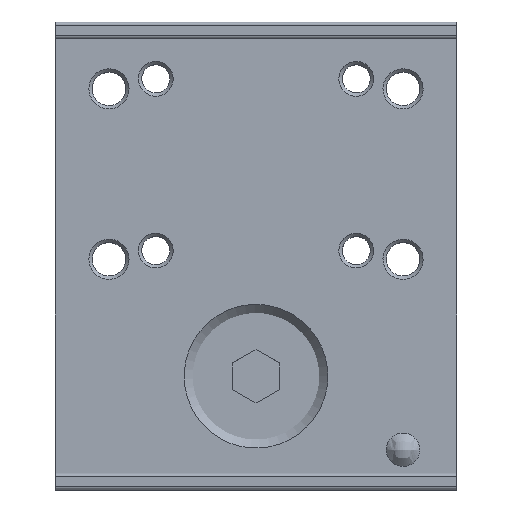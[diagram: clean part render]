
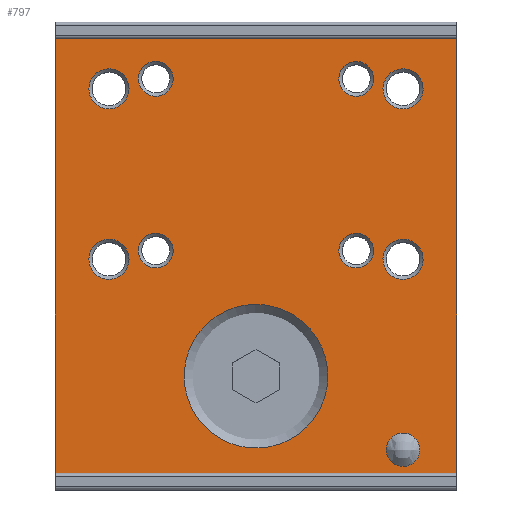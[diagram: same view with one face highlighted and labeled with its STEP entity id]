
A CAD part, top view. The second image highlights one B-rep face of the part: STEP entity #797.
In plain terms, the highlighted free-form (B-spline) face has degree [1, 1] with [2, 2] control points.
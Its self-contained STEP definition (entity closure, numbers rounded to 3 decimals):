
#138=CARTESIAN_POINT('',(30.,67.5,12.));
#139=VERTEX_POINT('',#138);
#145=CARTESIAN_POINT('',(30.,2.5,12.));
#146=VERTEX_POINT('',#145);
#147=CARTESIAN_POINT('',(30.,67.5,12.));
#148=CARTESIAN_POINT('',(30.,2.5,12.));
#149=B_SPLINE_CURVE_WITH_KNOTS('',1,(#147,#148),.POLYLINE_FORM.,.F.,.U.,(2,2),(0.,1.),.UNSPECIFIED.);
#150=EDGE_CURVE('',#139,#146,#149,.T.);
#251=CARTESIAN_POINT('',(-30.,67.5,12.));
#252=VERTEX_POINT('',#251);
#258=CARTESIAN_POINT('',(-30.,2.5,12.));
#259=VERTEX_POINT('',#258);
#260=CARTESIAN_POINT('',(-30.,67.5,12.));
#261=CARTESIAN_POINT('',(-30.,2.5,12.));
#262=B_SPLINE_CURVE_WITH_KNOTS('',1,(#260,#261),.POLYLINE_FORM.,.F.,.U.,(2,2),(0.,1.),.UNSPECIFIED.);
#263=EDGE_CURVE('',#252,#259,#262,.T.);
#355=CARTESIAN_POINT('',(30.,67.5,12.));
#356=CARTESIAN_POINT('',(-30.,67.5,12.));
#357=B_SPLINE_CURVE_WITH_KNOTS('',1,(#355,#356),.POLYLINE_FORM.,.F.,.U.,(2,2),(0.,1.),.UNSPECIFIED.);
#358=EDGE_CURVE('',#139,#252,#357,.T.);
#375=CARTESIAN_POINT('',(30.,2.5,12.));
#376=CARTESIAN_POINT('',(-30.,2.5,12.));
#377=B_SPLINE_CURVE_WITH_KNOTS('',1,(#375,#376),.POLYLINE_FORM.,.F.,.U.,(2,2),(0.,1.),.UNSPECIFIED.);
#378=EDGE_CURVE('',#146,#259,#377,.T.);
#439=CARTESIAN_POINT('',(23.5,6.,12.));
#440=VERTEX_POINT('',#439);
#459=CARTESIAN_POINT('',(23.5,6.,12.));
#460=CARTESIAN_POINT('',(23.5,8.598,12.));
#461=CARTESIAN_POINT('',(21.25,7.299,12.));
#462=CARTESIAN_POINT('',(19.,6.,12.));
#463=CARTESIAN_POINT('',(21.25,4.701,12.));
#464=CARTESIAN_POINT('',(23.5,3.402,12.));
#465=CARTESIAN_POINT('',(23.5,6.,12.));
#466=(BOUNDED_CURVE()B_SPLINE_CURVE(2,(#459,#460,#461,#462,#463,#464,#465),.CIRCULAR_ARC.,.T.,.U.)B_SPLINE_CURVE_WITH_KNOTS((3,2,2,3),(0.,0.333,0.667,1.),.UNSPECIFIED.)CURVE()GEOMETRIC_REPRESENTATION_ITEM()RATIONAL_B_SPLINE_CURVE((1.,0.5,1.,0.5,1.,0.5,1.))REPRESENTATION_ITEM(''));
#467=EDGE_CURVE('',#440,#440,#466,.T.);
#639=CARTESIAN_POINT('',(30.,67.5,12.));
#640=CARTESIAN_POINT('',(-30.,67.5,12.));
#641=CARTESIAN_POINT('',(30.,2.5,12.));
#642=CARTESIAN_POINT('',(-30.,2.5,12.));
#643=B_SPLINE_SURFACE_WITH_KNOTS('',1,1,((#639,#640),(#641,#642)),.PLANE_SURF.,.F.,.F.,.U.,(2,2),(2,2),(0.,1.),(0.,1.),.UNSPECIFIED.);
#644=ORIENTED_EDGE('',*,*,#150,.T.);
#645=ORIENTED_EDGE('',*,*,#378,.T.);
#646=ORIENTED_EDGE('',*,*,#263,.F.);
#647=ORIENTED_EDGE('',*,*,#358,.F.);
#648=EDGE_LOOP('',(#644,#645,#646,#647));
#649=FACE_OUTER_BOUND('',#648,.F.);
#650=CARTESIAN_POINT('',(25.,34.5,12.));
#651=VERTEX_POINT('',#650);
#652=CARTESIAN_POINT('',(25.,34.5,12.));
#653=CARTESIAN_POINT('',(25.,37.5,12.));
#654=CARTESIAN_POINT('',(22.,37.5,12.));
#655=CARTESIAN_POINT('',(19.,37.5,12.));
#656=CARTESIAN_POINT('',(19.,34.5,12.));
#657=CARTESIAN_POINT('',(19.,31.5,12.));
#658=CARTESIAN_POINT('',(22.,31.5,12.));
#659=CARTESIAN_POINT('',(25.,31.5,12.));
#660=CARTESIAN_POINT('',(25.,34.5,12.));
#661=(BOUNDED_CURVE()B_SPLINE_CURVE(2,(#652,#653,#654,#655,#656,#657,#658,#659,#660),.CIRCULAR_ARC.,.T.,.U.)B_SPLINE_CURVE_WITH_KNOTS((3,2,2,2,3),(0.,0.25,0.5,0.75,1.),.UNSPECIFIED.)CURVE()GEOMETRIC_REPRESENTATION_ITEM()RATIONAL_B_SPLINE_CURVE((1.,0.707,1.,0.707,1.,0.707,1.,0.707,1.))REPRESENTATION_ITEM(''));
#662=EDGE_CURVE('',#651,#651,#661,.T.);
#663=ORIENTED_EDGE('',*,*,#662,.T.);
#664=EDGE_LOOP('',(#663));
#665=FACE_BOUND('',#664,.F.);
#666=CARTESIAN_POINT('',(-19.,60.,12.));
#667=VERTEX_POINT('',#666);
#668=CARTESIAN_POINT('',(-19.,60.,12.));
#669=CARTESIAN_POINT('',(-19.,63.,12.));
#670=CARTESIAN_POINT('',(-22.,63.,12.));
#671=CARTESIAN_POINT('',(-25.,63.,12.));
#672=CARTESIAN_POINT('',(-25.,60.,12.));
#673=CARTESIAN_POINT('',(-25.,57.,12.));
#674=CARTESIAN_POINT('',(-22.,57.,12.));
#675=CARTESIAN_POINT('',(-19.,57.,12.));
#676=CARTESIAN_POINT('',(-19.,60.,12.));
#677=(BOUNDED_CURVE()B_SPLINE_CURVE(2,(#668,#669,#670,#671,#672,#673,#674,#675,#676),.CIRCULAR_ARC.,.T.,.U.)B_SPLINE_CURVE_WITH_KNOTS((3,2,2,2,3),(0.,0.25,0.5,0.75,1.),.UNSPECIFIED.)CURVE()GEOMETRIC_REPRESENTATION_ITEM()RATIONAL_B_SPLINE_CURVE((1.,0.707,1.,0.707,1.,0.707,1.,0.707,1.))REPRESENTATION_ITEM(''));
#678=EDGE_CURVE('',#667,#667,#677,.T.);
#679=ORIENTED_EDGE('',*,*,#678,.T.);
#680=EDGE_LOOP('',(#679));
#681=FACE_BOUND('',#680,.F.);
#682=CARTESIAN_POINT('',(17.6,35.8,12.));
#683=VERTEX_POINT('',#682);
#684=CARTESIAN_POINT('',(17.6,35.8,12.));
#685=CARTESIAN_POINT('',(17.6,38.4,12.));
#686=CARTESIAN_POINT('',(15.,38.4,12.));
#687=CARTESIAN_POINT('',(12.4,38.4,12.));
#688=CARTESIAN_POINT('',(12.4,35.8,12.));
#689=CARTESIAN_POINT('',(12.4,33.2,12.));
#690=CARTESIAN_POINT('',(15.,33.2,12.));
#691=CARTESIAN_POINT('',(17.6,33.2,12.));
#692=CARTESIAN_POINT('',(17.6,35.8,12.));
#693=(BOUNDED_CURVE()B_SPLINE_CURVE(2,(#684,#685,#686,#687,#688,#689,#690,#691,#692),.CIRCULAR_ARC.,.T.,.U.)B_SPLINE_CURVE_WITH_KNOTS((3,2,2,2,3),(0.,0.25,0.5,0.75,1.),.UNSPECIFIED.)CURVE()GEOMETRIC_REPRESENTATION_ITEM()RATIONAL_B_SPLINE_CURVE((1.,0.707,1.,0.707,1.,0.707,1.,0.707,1.))REPRESENTATION_ITEM(''));
#694=EDGE_CURVE('',#683,#683,#693,.T.);
#695=ORIENTED_EDGE('',*,*,#694,.T.);
#696=EDGE_LOOP('',(#695));
#697=FACE_BOUND('',#696,.F.);
#698=CARTESIAN_POINT('',(-12.4,35.8,12.));
#699=VERTEX_POINT('',#698);
#700=CARTESIAN_POINT('',(-12.4,35.8,12.));
#701=CARTESIAN_POINT('',(-12.4,38.4,12.));
#702=CARTESIAN_POINT('',(-15.,38.4,12.));
#703=CARTESIAN_POINT('',(-17.6,38.4,12.));
#704=CARTESIAN_POINT('',(-17.6,35.8,12.));
#705=CARTESIAN_POINT('',(-17.6,33.2,12.));
#706=CARTESIAN_POINT('',(-15.,33.2,12.));
#707=CARTESIAN_POINT('',(-12.4,33.2,12.));
#708=CARTESIAN_POINT('',(-12.4,35.8,12.));
#709=(BOUNDED_CURVE()B_SPLINE_CURVE(2,(#700,#701,#702,#703,#704,#705,#706,#707,#708),.CIRCULAR_ARC.,.T.,.U.)B_SPLINE_CURVE_WITH_KNOTS((3,2,2,2,3),(0.,0.25,0.5,0.75,1.),.UNSPECIFIED.)CURVE()GEOMETRIC_REPRESENTATION_ITEM()RATIONAL_B_SPLINE_CURVE((1.,0.707,1.,0.707,1.,0.707,1.,0.707,1.))REPRESENTATION_ITEM(''));
#710=EDGE_CURVE('',#699,#699,#709,.T.);
#711=ORIENTED_EDGE('',*,*,#710,.T.);
#712=EDGE_LOOP('',(#711));
#713=FACE_BOUND('',#712,.F.);
#714=ORIENTED_EDGE('',*,*,#467,.T.);
#715=EDGE_LOOP('',(#714));
#716=FACE_BOUND('',#715,.F.);
#717=CARTESIAN_POINT('',(-12.4,61.5,12.));
#718=VERTEX_POINT('',#717);
#719=CARTESIAN_POINT('',(-12.4,61.5,12.));
#720=CARTESIAN_POINT('',(-12.4,64.1,12.));
#721=CARTESIAN_POINT('',(-15.,64.1,12.));
#722=CARTESIAN_POINT('',(-17.6,64.1,12.));
#723=CARTESIAN_POINT('',(-17.6,61.5,12.));
#724=CARTESIAN_POINT('',(-17.6,58.9,12.));
#725=CARTESIAN_POINT('',(-15.,58.9,12.));
#726=CARTESIAN_POINT('',(-12.4,58.9,12.));
#727=CARTESIAN_POINT('',(-12.4,61.5,12.));
#728=(BOUNDED_CURVE()B_SPLINE_CURVE(2,(#719,#720,#721,#722,#723,#724,#725,#726,#727),.CIRCULAR_ARC.,.T.,.U.)B_SPLINE_CURVE_WITH_KNOTS((3,2,2,2,3),(0.,0.25,0.5,0.75,1.),.UNSPECIFIED.)CURVE()GEOMETRIC_REPRESENTATION_ITEM()RATIONAL_B_SPLINE_CURVE((1.,0.707,1.,0.707,1.,0.707,1.,0.707,1.))REPRESENTATION_ITEM(''));
#729=EDGE_CURVE('',#718,#718,#728,.T.);
#730=ORIENTED_EDGE('',*,*,#729,.T.);
#731=EDGE_LOOP('',(#730));
#732=FACE_BOUND('',#731,.F.);
#733=CARTESIAN_POINT('',(17.6,61.5,12.));
#734=VERTEX_POINT('',#733);
#735=CARTESIAN_POINT('',(17.6,61.5,12.));
#736=CARTESIAN_POINT('',(17.6,64.1,12.));
#737=CARTESIAN_POINT('',(15.,64.1,12.));
#738=CARTESIAN_POINT('',(12.4,64.1,12.));
#739=CARTESIAN_POINT('',(12.4,61.5,12.));
#740=CARTESIAN_POINT('',(12.4,58.9,12.));
#741=CARTESIAN_POINT('',(15.,58.9,12.));
#742=CARTESIAN_POINT('',(17.6,58.9,12.));
#743=CARTESIAN_POINT('',(17.6,61.5,12.));
#744=(BOUNDED_CURVE()B_SPLINE_CURVE(2,(#735,#736,#737,#738,#739,#740,#741,#742,#743),.CIRCULAR_ARC.,.T.,.U.)B_SPLINE_CURVE_WITH_KNOTS((3,2,2,2,3),(0.,0.25,0.5,0.75,1.),.UNSPECIFIED.)CURVE()GEOMETRIC_REPRESENTATION_ITEM()RATIONAL_B_SPLINE_CURVE((1.,0.707,1.,0.707,1.,0.707,1.,0.707,1.))REPRESENTATION_ITEM(''));
#745=EDGE_CURVE('',#734,#734,#744,.T.);
#746=ORIENTED_EDGE('',*,*,#745,.T.);
#747=EDGE_LOOP('',(#746));
#748=FACE_BOUND('',#747,.F.);
#749=CARTESIAN_POINT('',(-19.,34.5,12.));
#750=VERTEX_POINT('',#749);
#751=CARTESIAN_POINT('',(-19.,34.5,12.));
#752=CARTESIAN_POINT('',(-19.,37.5,12.));
#753=CARTESIAN_POINT('',(-22.,37.5,12.));
#754=CARTESIAN_POINT('',(-25.,37.5,12.));
#755=CARTESIAN_POINT('',(-25.,34.5,12.));
#756=CARTESIAN_POINT('',(-25.,31.5,12.));
#757=CARTESIAN_POINT('',(-22.,31.5,12.));
#758=CARTESIAN_POINT('',(-19.,31.5,12.));
#759=CARTESIAN_POINT('',(-19.,34.5,12.));
#760=(BOUNDED_CURVE()B_SPLINE_CURVE(2,(#751,#752,#753,#754,#755,#756,#757,#758,#759),.CIRCULAR_ARC.,.T.,.U.)B_SPLINE_CURVE_WITH_KNOTS((3,2,2,2,3),(0.,0.25,0.5,0.75,1.),.UNSPECIFIED.)CURVE()GEOMETRIC_REPRESENTATION_ITEM()RATIONAL_B_SPLINE_CURVE((1.,0.707,1.,0.707,1.,0.707,1.,0.707,1.))REPRESENTATION_ITEM(''));
#761=EDGE_CURVE('',#750,#750,#760,.T.);
#762=ORIENTED_EDGE('',*,*,#761,.T.);
#763=EDGE_LOOP('',(#762));
#764=FACE_BOUND('',#763,.F.);
#765=CARTESIAN_POINT('',(25.,60.,12.));
#766=VERTEX_POINT('',#765);
#767=CARTESIAN_POINT('',(25.,60.,12.));
#768=CARTESIAN_POINT('',(25.,63.,12.));
#769=CARTESIAN_POINT('',(22.,63.,12.));
#770=CARTESIAN_POINT('',(19.,63.,12.));
#771=CARTESIAN_POINT('',(19.,60.,12.));
#772=CARTESIAN_POINT('',(19.,57.,12.));
#773=CARTESIAN_POINT('',(22.,57.,12.));
#774=CARTESIAN_POINT('',(25.,57.,12.));
#775=CARTESIAN_POINT('',(25.,60.,12.));
#776=(BOUNDED_CURVE()B_SPLINE_CURVE(2,(#767,#768,#769,#770,#771,#772,#773,#774,#775),.CIRCULAR_ARC.,.T.,.U.)B_SPLINE_CURVE_WITH_KNOTS((3,2,2,2,3),(0.,0.25,0.5,0.75,1.),.UNSPECIFIED.)CURVE()GEOMETRIC_REPRESENTATION_ITEM()RATIONAL_B_SPLINE_CURVE((1.,0.707,1.,0.707,1.,0.707,1.,0.707,1.))REPRESENTATION_ITEM(''));
#777=EDGE_CURVE('',#766,#766,#776,.T.);
#778=ORIENTED_EDGE('',*,*,#777,.T.);
#779=EDGE_LOOP('',(#778));
#780=FACE_BOUND('',#779,.F.);
#781=CARTESIAN_POINT('',(10.75,17.,12.));
#782=VERTEX_POINT('',#781);
#783=CARTESIAN_POINT('',(10.75,17.,12.));
#784=CARTESIAN_POINT('',(10.75,27.75,12.));
#785=CARTESIAN_POINT('',(0.,27.75,12.));
#786=CARTESIAN_POINT('',(-10.75,27.75,12.));
#787=CARTESIAN_POINT('',(-10.75,17.,12.));
#788=CARTESIAN_POINT('',(-10.75,6.25,12.));
#789=CARTESIAN_POINT('',(0.,6.25,12.));
#790=CARTESIAN_POINT('',(10.75,6.25,12.));
#791=CARTESIAN_POINT('',(10.75,17.,12.));
#792=(BOUNDED_CURVE()B_SPLINE_CURVE(2,(#783,#784,#785,#786,#787,#788,#789,#790,#791),.CIRCULAR_ARC.,.T.,.U.)B_SPLINE_CURVE_WITH_KNOTS((3,2,2,2,3),(0.,0.25,0.5,0.75,1.),.UNSPECIFIED.)CURVE()GEOMETRIC_REPRESENTATION_ITEM()RATIONAL_B_SPLINE_CURVE((1.,0.707,1.,0.707,1.,0.707,1.,0.707,1.))REPRESENTATION_ITEM(''));
#793=EDGE_CURVE('',#782,#782,#792,.T.);
#794=ORIENTED_EDGE('',*,*,#793,.T.);
#795=EDGE_LOOP('',(#794));
#796=FACE_BOUND('',#795,.F.);
#797=ADVANCED_FACE('',(#649,#665,#681,#697,#713,#716,#732,#748,#764,#780,#796),#643,.F.);
